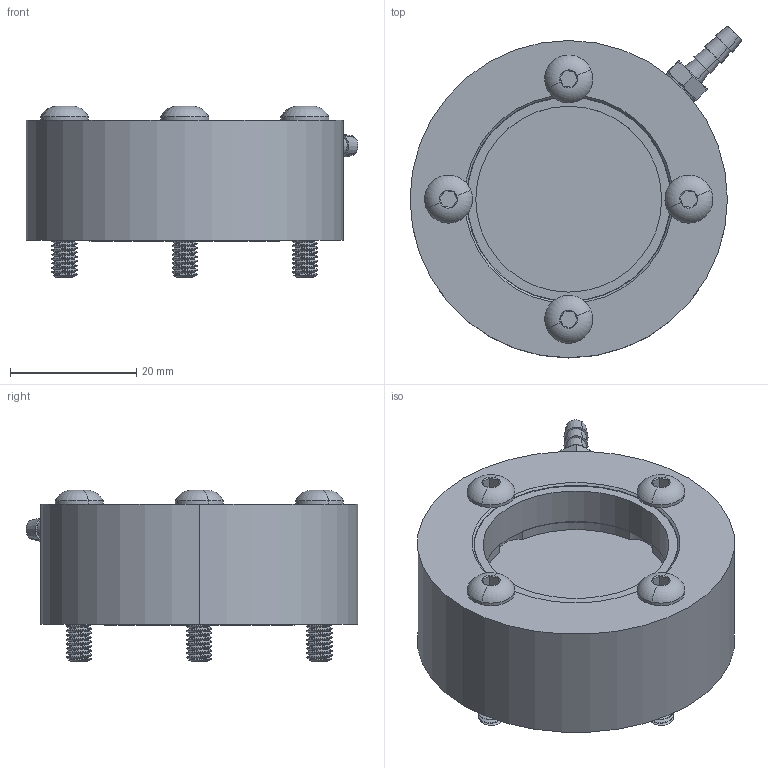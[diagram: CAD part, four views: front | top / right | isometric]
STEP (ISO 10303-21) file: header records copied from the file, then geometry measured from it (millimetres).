
FILE_DESCRIPTION (( 'STEP AP214' ), '1' );
FILE_NAME ('BBK-19-W.STEP', '2017-06-13T17:39:45', ( '' ), ( '' ), 'SwSTEP 2.0', 'SolidWorks 2017', '' );
FILE_SCHEMA (( 'AUTOMOTIVE_DESIGN' ));
Length unit declared in the file: inch
Products named in the file (1): BBK-19-W
Bounding box: 52.6 x 52.6 x 27.19 mm (x, y, z)
Volume: 35210.8 mm3; surface area: 14482 mm2
Topology: 10 solids, 10 shells, 695 faces, 1931 edges, 1270 vertices
Faces by surface type: cylinder 507, cone 93, plane 72, torus 12, bspline 11
Entity records: 35918 total; most frequent: CARTESIAN_POINT 20856, ORIENTED_EDGE 3862, DIRECTION 2457, EDGE_CURVE 1931, VERTEX_POINT 1270, AXIS2_PLACEMENT_3D 921, EDGE_LOOP 715, ADVANCED_FACE 695
